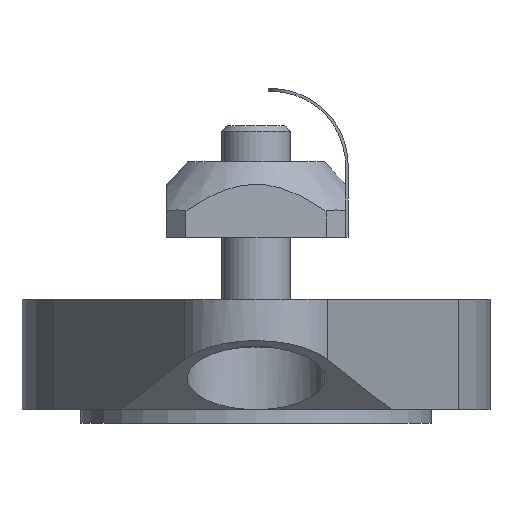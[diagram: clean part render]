
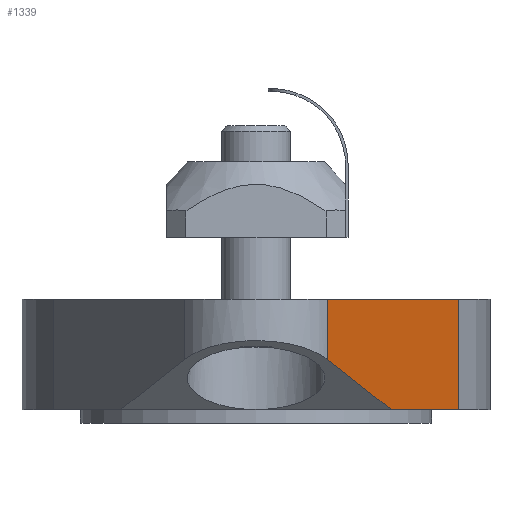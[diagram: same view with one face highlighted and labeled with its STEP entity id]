
A CAD part, left-side view. The second image highlights one B-rep face of the part: STEP entity #1339.
In plain terms, the highlighted planar face has unit normal (-0.5, -0.866, 0) as drawn and (0.5, -0.866, 0) by its records, which use the part's own axes.
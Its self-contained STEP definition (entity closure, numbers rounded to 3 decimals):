
#1236=CARTESIAN_POINT('',(17.0,-9.815,8.0));
#1237=VERTEX_POINT('',#1236);
#1244=CARTESIAN_POINT('',(25.,-5.196,4.364));
#1245=VERTEX_POINT('',#1244);
#1246=CARTESIAN_POINT('',(25.,-5.196,4.364));
#1247=DIRECTION('',(-0.806,-0.465,0.366));
#1248=VECTOR('',#1247,9.928);
#1249=LINE('',#1246,#1248);
#1250=EDGE_CURVE('',#1245,#1237,#1249,.T.);
#1301=CARTESIAN_POINT('',(25.,-5.196,0.0));
#1302=DIRECTION('',(0.5,-0.866,0.0));
#1303=DIRECTION('',(0.0,0.0,-1.0));
#1304=AXIS2_PLACEMENT_3D('',#1301,#1302,#1303);
#1305=PLANE('',#1304);
#1306=ORIENTED_EDGE('',*,*,#1250,.T.);
#1307=CARTESIAN_POINT('',(8.5,-14.722,8.0));
#1308=VERTEX_POINT('',#1307);
#1309=CARTESIAN_POINT('',(17.0,-9.815,8.0));
#1310=DIRECTION('',(-0.866,-0.5,0.0));
#1311=VECTOR('',#1310,9.815);
#1312=LINE('',#1309,#1311);
#1313=EDGE_CURVE('',#1237,#1308,#1312,.T.);
#1314=ORIENTED_EDGE('',*,*,#1313,.T.);
#1315=CARTESIAN_POINT('',(8.5,-14.722,0.0));
#1316=VERTEX_POINT('',#1315);
#1317=CARTESIAN_POINT('',(8.5,-14.722,0.0));
#1318=DIRECTION('',(0.0,0.0,1.0));
#1319=VECTOR('',#1318,8.0);
#1320=LINE('',#1317,#1319);
#1321=EDGE_CURVE('',#1316,#1308,#1320,.T.);
#1322=ORIENTED_EDGE('',*,*,#1321,.F.);
#1323=CARTESIAN_POINT('',(25.,-5.196,0.0));
#1324=VERTEX_POINT('',#1323);
#1325=CARTESIAN_POINT('',(25.,-5.196,0.0));
#1326=DIRECTION('',(-0.866,-0.5,0.0));
#1327=VECTOR('',#1326,19.053);
#1328=LINE('',#1325,#1327);
#1329=EDGE_CURVE('',#1324,#1316,#1328,.T.);
#1330=ORIENTED_EDGE('',*,*,#1329,.F.);
#1331=CARTESIAN_POINT('',(25.,-5.196,0.0));
#1332=DIRECTION('',(0.0,0.0,1.0));
#1333=VECTOR('',#1332,4.364);
#1334=LINE('',#1331,#1333);
#1335=EDGE_CURVE('',#1324,#1245,#1334,.T.);
#1336=ORIENTED_EDGE('',*,*,#1335,.T.);
#1337=EDGE_LOOP('',(#1306,#1314,#1322,#1330,#1336));
#1338=FACE_OUTER_BOUND('',#1337,.T.);
#1339=ADVANCED_FACE('',(#1338),#1305,.T.);
